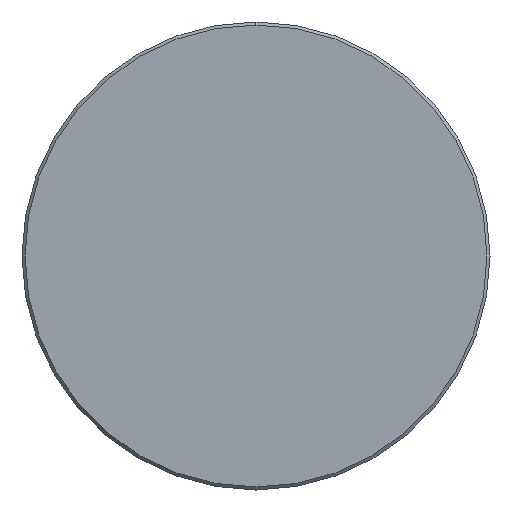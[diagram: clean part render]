
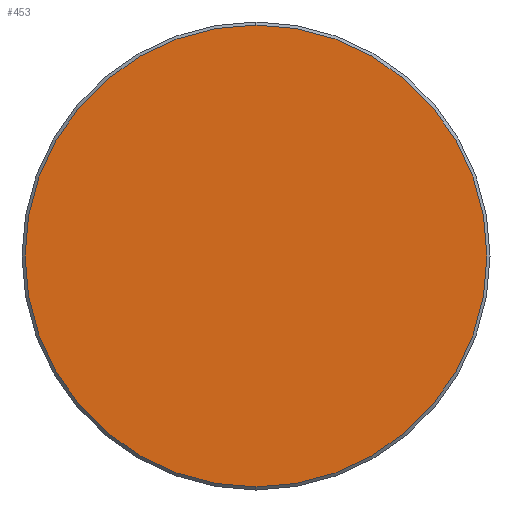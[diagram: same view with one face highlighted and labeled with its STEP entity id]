
A CAD part, left-side view. The second image highlights one B-rep face of the part: STEP entity #453.
In plain terms, the highlighted planar face has unit normal (-1, 0, 0).
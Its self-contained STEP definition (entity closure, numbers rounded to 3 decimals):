
#53 = DIRECTION ( 'NONE',  ( 1., 0., 0. ) ) ;
#118 = DIRECTION ( 'NONE',  ( -1., 0., 0. ) ) ;
#122 = AXIS2_PLACEMENT_3D ( 'NONE', #543, #249, #331 ) ;
#131 = ORIENTED_EDGE ( 'NONE', *, *, #565, .T. ) ;
#249 = DIRECTION ( 'NONE',  ( -1., 0., 0. ) ) ;
#305 = CIRCLE ( 'NONE', #783, 22.7 ) ;
#331 = DIRECTION ( 'NONE',  ( 0., 0., 1. ) ) ;
#344 = CARTESIAN_POINT ( 'NONE',  ( 0., 0., 0. ) ) ;
#387 = CARTESIAN_POINT ( 'NONE',  ( 0., 0., -22.7 ) ) ;
#408 = DIRECTION ( 'NONE',  ( 0., 0., -1. ) ) ;
#447 = EDGE_CURVE ( 'NONE', #839, #842, #305, .T. ) ;
#453 = ADVANCED_FACE ( 'NONE', ( #584 ), #740, .F. ) ;
#488 = ORIENTED_EDGE ( 'NONE', *, *, #447, .T. ) ;
#543 = CARTESIAN_POINT ( 'NONE',  ( 0., 0., 0. ) ) ;
#550 = CARTESIAN_POINT ( 'NONE',  ( 0., 0., 0. ) ) ;
#561 = CIRCLE ( 'NONE', #122, 22.7 ) ;
#565 = EDGE_CURVE ( 'NONE', #842, #839, #561, .T. ) ;
#584 = FACE_OUTER_BOUND ( 'NONE', #644, .T. ) ;
#644 = EDGE_LOOP ( 'NONE', ( #131, #488 ) ) ;
#646 = AXIS2_PLACEMENT_3D ( 'NONE', #344, #53, #408 ) ;
#677 = DIRECTION ( 'NONE',  ( 0., 0., 1. ) ) ;
#740 = PLANE ( 'NONE',  #646 ) ;
#783 = AXIS2_PLACEMENT_3D ( 'NONE', #550, #118, #677 ) ;
#795 = CARTESIAN_POINT ( 'NONE',  ( 0., 0., 22.7 ) ) ;
#839 = VERTEX_POINT ( 'NONE', #795 ) ;
#842 = VERTEX_POINT ( 'NONE', #387 ) ;
